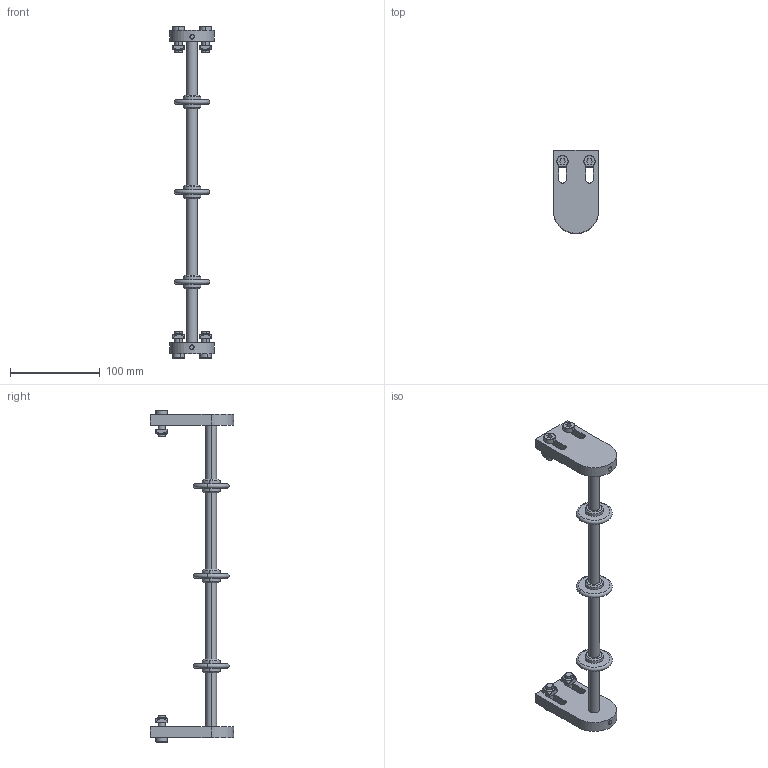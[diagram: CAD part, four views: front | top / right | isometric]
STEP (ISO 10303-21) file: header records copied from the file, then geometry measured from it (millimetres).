
FILE_DESCRIPTION (( 'STEP AP203' ), '1' );
FILE_NAME ('084.095.KSW.300.STEP', '2019-07-30T08:41:58', ( '' ), ( '' ), 'SwSTEP 2.0', 'SolidWorks 2018', '' );
FILE_SCHEMA (( 'CONFIG_CONTROL_DESIGN' ));
Length unit declared in the file: millimetre
Products named in the file (7): 084.302.000 DADI ALUSIC 13x13-1_084.302.004; 084.802.030; GRANI A PUNTA PIATTA UNI 5923_M6x16 UNI 5923; 084.095.KSW.300; Parte359^084.095.KSW.300; 084.301.000 VITI ALUSIC_084.301.004; 084.802.041
Assembly tree (16 placements, depth 2):
  084.095.KSW.300
    Parte359^084.095.KSW.300
    084.802.041  x3
    084.802.030  x2
    GRANI A PUNTA PIATTA UNI 5923_M6x16 UNI 5923  x2
    084.301.000 VITI ALUSIC_084.301.004  x4
    084.302.000 DADI ALUSIC 13x13-1_084.302.004  x4
Bounding box: 50 x 92.5 x 369 mm (x, y, z)
Volume: 163002.8 mm3; surface area: 59195.7 mm2
Topology: 16 solids, 16 shells, 288 faces, 670 edges, 432 vertices
Faces by surface type: plane 116, cylinder 82, torus 38, cone 36, bspline 16
Entity records: 4225 total; most frequent: CARTESIAN_POINT 993, DIRECTION 488, ORIENTED_EDGE 440, EDGE_CURVE 220, AXIS2_PLACEMENT_3D 191, VERTEX_POINT 142, EDGE_LOOP 112, LINE 106
